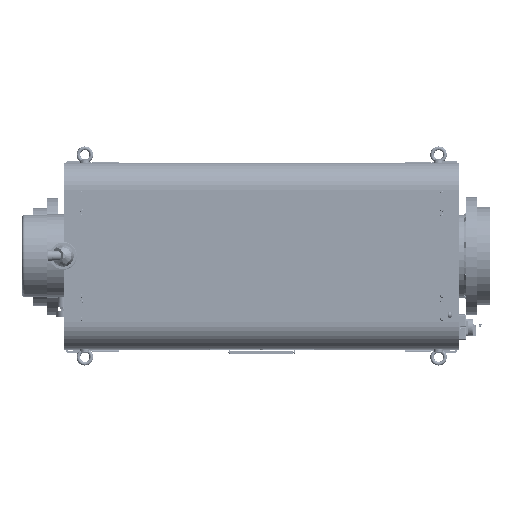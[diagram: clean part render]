
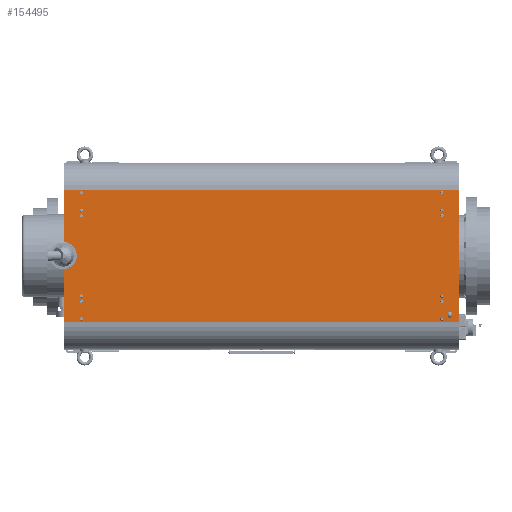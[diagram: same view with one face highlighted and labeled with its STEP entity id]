
A CAD part, top view. The second image highlights one B-rep face of the part: STEP entity #154495.
In plain terms, the highlighted planar face has unit normal (0, 0, 1).
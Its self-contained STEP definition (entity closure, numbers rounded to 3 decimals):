
#7468=FACE_BOUND('',#23533,.T.);
#7469=FACE_BOUND('',#23534,.T.);
#7470=FACE_BOUND('',#23535,.T.);
#7471=FACE_BOUND('',#23536,.T.);
#7472=FACE_BOUND('',#23537,.T.);
#7473=FACE_BOUND('',#23538,.T.);
#7474=FACE_BOUND('',#23539,.T.);
#7475=FACE_BOUND('',#23540,.T.);
#7476=FACE_BOUND('',#23541,.T.);
#7477=FACE_BOUND('',#23542,.T.);
#7478=FACE_BOUND('',#23543,.T.);
#7479=FACE_BOUND('',#23544,.T.);
#7480=FACE_BOUND('',#23545,.T.);
#9281=PLANE('',#164155);
#14428=FACE_OUTER_BOUND('',#23532,.T.);
#23532=EDGE_LOOP('',(#104262,#104263,#104264,#104265,#104266,#104267));
#23533=EDGE_LOOP('',(#104268,#104269,#104270,#104271));
#23534=EDGE_LOOP('',(#104272));
#23535=EDGE_LOOP('',(#104273));
#23536=EDGE_LOOP('',(#104274));
#23537=EDGE_LOOP('',(#104275));
#23538=EDGE_LOOP('',(#104276));
#23539=EDGE_LOOP('',(#104277));
#23540=EDGE_LOOP('',(#104278));
#23541=EDGE_LOOP('',(#104279));
#23542=EDGE_LOOP('',(#104280));
#23543=EDGE_LOOP('',(#104281));
#23544=EDGE_LOOP('',(#104282));
#23545=EDGE_LOOP('',(#104283));
#33948=LINE('',#216189,#47154);
#33952=LINE('',#216200,#47158);
#33982=LINE('',#216369,#47188);
#33983=LINE('',#216371,#47189);
#33984=LINE('',#216373,#47190);
#33985=LINE('',#216375,#47191);
#33986=LINE('',#216376,#47192);
#47154=VECTOR('',#178458,10.);
#47158=VECTOR('',#178470,10.);
#47188=VECTOR('',#178664,10.);
#47189=VECTOR('',#178665,10.);
#47190=VECTOR('',#178666,10.);
#47191=VECTOR('',#178667,10.);
#47192=VECTOR('',#178668,10.);
#59845=CIRCLE('',#164067,8.5);
#59847=CIRCLE('',#164071,8.5);
#59877=CIRCLE('',#164117,3.);
#59879=CIRCLE('',#164120,3.);
#59881=CIRCLE('',#164123,3.);
#59883=CIRCLE('',#164126,3.);
#59885=CIRCLE('',#164129,3.);
#59887=CIRCLE('',#164132,3.);
#59889=CIRCLE('',#164135,3.);
#59891=CIRCLE('',#164138,3.);
#59893=CIRCLE('',#164141,3.);
#59895=CIRCLE('',#164144,3.);
#59897=CIRCLE('',#164147,3.);
#59899=CIRCLE('',#164150,3.);
#59902=CIRCLE('',#164154,53.);
#64814=VERTEX_POINT('',#216179);
#64815=VERTEX_POINT('',#216180);
#64818=VERTEX_POINT('',#216188);
#64820=VERTEX_POINT('',#216194);
#64850=VERTEX_POINT('',#216287);
#64852=VERTEX_POINT('',#216293);
#64854=VERTEX_POINT('',#216299);
#64856=VERTEX_POINT('',#216305);
#64858=VERTEX_POINT('',#216311);
#64860=VERTEX_POINT('',#216317);
#64862=VERTEX_POINT('',#216323);
#64864=VERTEX_POINT('',#216329);
#64866=VERTEX_POINT('',#216335);
#64868=VERTEX_POINT('',#216341);
#64870=VERTEX_POINT('',#216347);
#64872=VERTEX_POINT('',#216353);
#64875=VERTEX_POINT('',#216360);
#64877=VERTEX_POINT('',#216364);
#64878=VERTEX_POINT('',#216368);
#64879=VERTEX_POINT('',#216370);
#64880=VERTEX_POINT('',#216372);
#64881=VERTEX_POINT('',#216374);
#80017=EDGE_CURVE('',#64814,#64815,#59845,.T.);
#80021=EDGE_CURVE('',#64818,#64814,#33948,.T.);
#80024=EDGE_CURVE('',#64820,#64818,#59847,.T.);
#80027=EDGE_CURVE('',#64815,#64820,#33952,.T.);
#80071=EDGE_CURVE('',#64850,#64850,#59877,.T.);
#80074=EDGE_CURVE('',#64852,#64852,#59879,.T.);
#80077=EDGE_CURVE('',#64854,#64854,#59881,.T.);
#80080=EDGE_CURVE('',#64856,#64856,#59883,.T.);
#80083=EDGE_CURVE('',#64858,#64858,#59885,.T.);
#80086=EDGE_CURVE('',#64860,#64860,#59887,.T.);
#80089=EDGE_CURVE('',#64862,#64862,#59889,.T.);
#80092=EDGE_CURVE('',#64864,#64864,#59891,.T.);
#80095=EDGE_CURVE('',#64866,#64866,#59893,.T.);
#80098=EDGE_CURVE('',#64868,#64868,#59895,.T.);
#80101=EDGE_CURVE('',#64870,#64870,#59897,.T.);
#80104=EDGE_CURVE('',#64872,#64872,#59899,.T.);
#80110=EDGE_CURVE('',#64875,#64877,#59902,.T.);
#80111=EDGE_CURVE('',#64878,#64877,#33982,.T.);
#80112=EDGE_CURVE('',#64878,#64879,#33983,.T.);
#80113=EDGE_CURVE('',#64879,#64880,#33984,.T.);
#80114=EDGE_CURVE('',#64881,#64880,#33985,.T.);
#80115=EDGE_CURVE('',#64875,#64881,#33986,.T.);
#104262=ORIENTED_EDGE('',*,*,#80110,.T.);
#104263=ORIENTED_EDGE('',*,*,#80111,.F.);
#104264=ORIENTED_EDGE('',*,*,#80112,.T.);
#104265=ORIENTED_EDGE('',*,*,#80113,.T.);
#104266=ORIENTED_EDGE('',*,*,#80114,.F.);
#104267=ORIENTED_EDGE('',*,*,#80115,.F.);
#104268=ORIENTED_EDGE('',*,*,#80017,.T.);
#104269=ORIENTED_EDGE('',*,*,#80027,.T.);
#104270=ORIENTED_EDGE('',*,*,#80024,.T.);
#104271=ORIENTED_EDGE('',*,*,#80021,.T.);
#104272=ORIENTED_EDGE('',*,*,#80071,.T.);
#104273=ORIENTED_EDGE('',*,*,#80074,.T.);
#104274=ORIENTED_EDGE('',*,*,#80077,.T.);
#104275=ORIENTED_EDGE('',*,*,#80080,.T.);
#104276=ORIENTED_EDGE('',*,*,#80083,.T.);
#104277=ORIENTED_EDGE('',*,*,#80086,.T.);
#104278=ORIENTED_EDGE('',*,*,#80089,.T.);
#104279=ORIENTED_EDGE('',*,*,#80092,.T.);
#104280=ORIENTED_EDGE('',*,*,#80095,.T.);
#104281=ORIENTED_EDGE('',*,*,#80098,.T.);
#104282=ORIENTED_EDGE('',*,*,#80101,.T.);
#104283=ORIENTED_EDGE('',*,*,#80104,.T.);
#154495=ADVANCED_FACE('',(#14428,#7468,#7469,#7470,#7471,#7472,#7473,#7474,
#7475,#7476,#7477,#7478,#7479,#7480),#9281,.T.);
#164067=AXIS2_PLACEMENT_3D('',#216181,#178450,#178451);
#164071=AXIS2_PLACEMENT_3D('',#216195,#178463,#178464);
#164117=AXIS2_PLACEMENT_3D('',#216288,#178572,#178573);
#164120=AXIS2_PLACEMENT_3D('',#216294,#178579,#178580);
#164123=AXIS2_PLACEMENT_3D('',#216300,#178586,#178587);
#164126=AXIS2_PLACEMENT_3D('',#216306,#178593,#178594);
#164129=AXIS2_PLACEMENT_3D('',#216312,#178600,#178601);
#164132=AXIS2_PLACEMENT_3D('',#216318,#178607,#178608);
#164135=AXIS2_PLACEMENT_3D('',#216324,#178614,#178615);
#164138=AXIS2_PLACEMENT_3D('',#216330,#178621,#178622);
#164141=AXIS2_PLACEMENT_3D('',#216336,#178628,#178629);
#164144=AXIS2_PLACEMENT_3D('',#216342,#178635,#178636);
#164147=AXIS2_PLACEMENT_3D('',#216348,#178642,#178643);
#164150=AXIS2_PLACEMENT_3D('',#216354,#178649,#178650);
#164154=AXIS2_PLACEMENT_3D('',#216366,#178660,#178661);
#164155=AXIS2_PLACEMENT_3D('',#216367,#178662,#178663);
#178450=DIRECTION('center_axis',(0.,0.,
-1.));
#178451=DIRECTION('ref_axis',(1.,0.,0.));
#178458=DIRECTION('',(0.,1.,0.));
#178463=DIRECTION('center_axis',(0.,0.,
-1.));
#178464=DIRECTION('ref_axis',(-1.,0.,0.));
#178470=DIRECTION('',(0.,-1.,0.));
#178572=DIRECTION('center_axis',(0.,0.,
-1.));
#178573=DIRECTION('ref_axis',(0.,-1.,0.));
#178579=DIRECTION('center_axis',(0.,0.,
-1.));
#178580=DIRECTION('ref_axis',(0.,-1.,0.));
#178586=DIRECTION('center_axis',(0.,0.,
-1.));
#178587=DIRECTION('ref_axis',(0.,-1.,0.));
#178593=DIRECTION('center_axis',(0.,0.,
-1.));
#178594=DIRECTION('ref_axis',(0.,-1.,0.));
#178600=DIRECTION('center_axis',(0.,0.,
-1.));
#178601=DIRECTION('ref_axis',(0.,-1.,0.));
#178607=DIRECTION('center_axis',(0.,0.,
-1.));
#178608=DIRECTION('ref_axis',(0.,-1.,0.));
#178614=DIRECTION('center_axis',(0.,0.,
-1.));
#178615=DIRECTION('ref_axis',(0.,-1.,0.));
#178621=DIRECTION('center_axis',(0.,0.,
-1.));
#178622=DIRECTION('ref_axis',(0.,-1.,0.));
#178628=DIRECTION('center_axis',(0.,0.,
-1.));
#178629=DIRECTION('ref_axis',(0.,-1.,0.));
#178635=DIRECTION('center_axis',(0.,0.,
-1.));
#178636=DIRECTION('ref_axis',(0.,-1.,0.));
#178642=DIRECTION('center_axis',(0.,0.,
-1.));
#178643=DIRECTION('ref_axis',(0.,-1.,0.));
#178649=DIRECTION('center_axis',(0.,0.,
-1.));
#178650=DIRECTION('ref_axis',(0.,-1.,0.));
#178660=DIRECTION('center_axis',(0.,0.,
-1.));
#178661=DIRECTION('ref_axis',(0.,1.,0.));
#178662=DIRECTION('center_axis',(0.,0.,
1.));
#178663=DIRECTION('ref_axis',(1.,0.,0.));
#178664=DIRECTION('',(0.,1.,0.));
#178665=DIRECTION('',(1.,0.,0.));
#178666=DIRECTION('',(0.,1.,0.));
#178667=DIRECTION('',(1.,0.,0.));
#178668=DIRECTION('',(0.,1.,0.));
#216179=CARTESIAN_POINT('',(1374.5,104.5,1966.5));
#216180=CARTESIAN_POINT('',(1391.5,104.5,1966.5));
#216181=CARTESIAN_POINT('Origin',(1383.,104.5,1966.5));
#216188=CARTESIAN_POINT('',(1374.5,99.5,1966.5));
#216189=CARTESIAN_POINT('',(1374.5,212.25,1966.5));
#216194=CARTESIAN_POINT('',(1391.5,99.5,1966.5));
#216195=CARTESIAN_POINT('Origin',(1383.,99.5,1966.5));
#216200=CARTESIAN_POINT('',(1391.5,214.75,1966.5));
#216287=CARTESIAN_POINT('',(1353.,176.,1966.5));
#216288=CARTESIAN_POINT('Origin',(1353.,173.,1966.5));
#216293=CARTESIAN_POINT('',(1353.,501.,1966.5));
#216294=CARTESIAN_POINT('Origin',(1353.,498.,1966.5));
#216299=CARTESIAN_POINT('',(-13.,480.,1966.5));
#216300=CARTESIAN_POINT('Origin',(-13.,477.,1966.5));
#216305=CARTESIAN_POINT('',(-13.,501.,1966.5));
#216306=CARTESIAN_POINT('Origin',(-13.,498.,1966.5));
#216311=CARTESIAN_POINT('',(-13.,567.,1966.5));
#216312=CARTESIAN_POINT('Origin',(-13.,564.,1966.5));
#216317=CARTESIAN_POINT('',(1353.,567.,1966.5));
#216318=CARTESIAN_POINT('Origin',(1353.,564.,1966.5));
#216323=CARTESIAN_POINT('',(-13.,89.,1966.5));
#216324=CARTESIAN_POINT('Origin',(-13.,86.,1966.5));
#216329=CARTESIAN_POINT('',(1353.,89.,1966.5));
#216330=CARTESIAN_POINT('Origin',(1353.,86.,1966.5));
#216335=CARTESIAN_POINT('',(-13.,155.,1966.5));
#216336=CARTESIAN_POINT('Origin',(-13.,152.,1966.5));
#216341=CARTESIAN_POINT('',(-13.,176.,1966.5));
#216342=CARTESIAN_POINT('Origin',(-13.,173.,1966.5));
#216347=CARTESIAN_POINT('',(1353.,480.,1966.5));
#216348=CARTESIAN_POINT('Origin',(1353.,477.,1966.5));
#216353=CARTESIAN_POINT('',(1353.,155.,1966.5));
#216354=CARTESIAN_POINT('Origin',(1353.,152.,1966.5));
#216360=CARTESIAN_POINT('',(-78.,377.764,1966.5));
#216364=CARTESIAN_POINT('',(-78.,272.236,1966.5));
#216366=CARTESIAN_POINT('Origin',(-83.,325.,1966.5));
#216367=CARTESIAN_POINT('Origin',(670.,325.,1966.5));
#216368=CARTESIAN_POINT('',(-78.,75.,1966.5));
#216369=CARTESIAN_POINT('',(-78.,-342.653,1966.5));
#216370=CARTESIAN_POINT('',(1418.,75.,1966.5));
#216371=CARTESIAN_POINT('',(670.,75.,1966.5));
#216372=CARTESIAN_POINT('',(1418.,575.,1966.5));
#216373=CARTESIAN_POINT('',(1418.,-342.653,1966.5));
#216374=CARTESIAN_POINT('',(-78.,575.,1966.5));
#216375=CARTESIAN_POINT('',(670.,575.,1966.5));
#216376=CARTESIAN_POINT('',(-78.,-342.653,1966.5));
